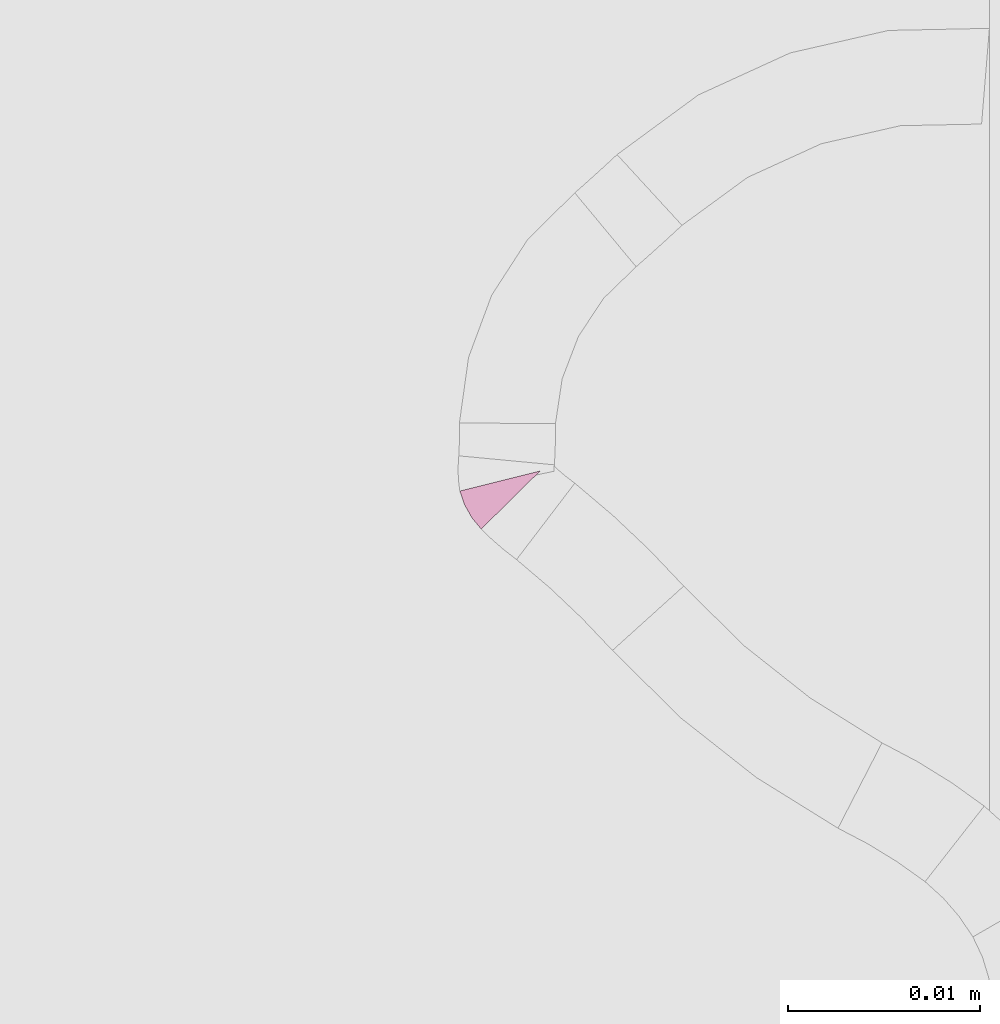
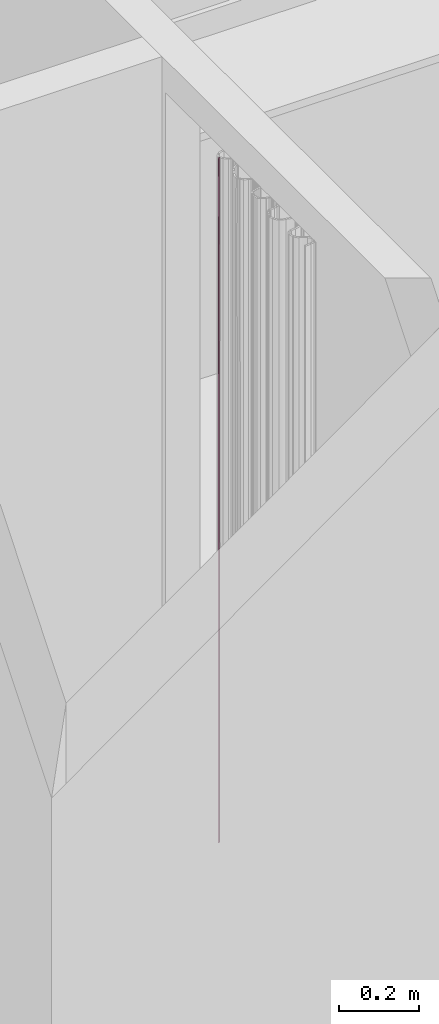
# One storey, part 339 of 418: 1 furnishing.
"""IFC2X3 building model written with IfcOpenShell, lengths in millimetres."""

import ifcopenshell
import ifcopenshell.guid

model = None  # the IFC model being written
_history = None  # IfcOwnerHistory: only IFC2X3 demands one
_inside = {}  # id of a spatial element -> (the spatial element, [elements in it])
_under = {}  # id of a project, library or spatial element -> (it, [spatial elements below it])
_declared = {}  # id of a project -> (the project, [libraries it declares])
_typed = {}  # id of a type object -> (the type object, [elements of that type])
_made_of = {}  # id of a material, layer set ... -> (it, [elements and type objects made of it])


def new_model(schema):
    """Start an empty IFC model of exactly this schema.

    Asked for "IFC4X3", IfcOpenShell would pick the latest addendum, in which some entities
    have other attributes; the version numbers below select the first issue.
    IFC2X3 requires an IfcOwnerHistory on every rooted entity: one is made here for all.
    """
    global model, _history
    if schema == "IFC4X3":
        model = ifcopenshell.file(schema_version=(4, 3, 0, 0))
    else:
        model = ifcopenshell.file(schema=schema)
    _inside.clear()
    _under.clear()
    _declared.clear()
    _typed.clear()
    _made_of.clear()
    _history = None
    if model.schema == "IFC2X3":
        org = make("IfcOrganization", Name="unknown")
        user = make(
            "IfcPersonAndOrganization",
            ThePerson=make("IfcPerson", FamilyName="unknown"),
            TheOrganization=org,
        )
        app = make(
            "IfcApplication",
            ApplicationDeveloper=org,
            Version="unknown",
            ApplicationFullName="unknown",
            ApplicationIdentifier="unknown",
        )
        _history = make(
            "IfcOwnerHistory",
            OwningUser=user,
            OwningApplication=app,
            ChangeAction="ADDED",
            CreationDate=0,
        )
    return model


def make(cls, **values):
    """One entity of the class cls with the attributes given. An attribute that is None is left unset."""
    return model.create_entity(
        cls, **{name: value for name, value in values.items() if value is not None}
    )


def entity(cls, *values):
    """Any entity or typed value of the class cls, its attributes in the order of the schema. None: left unset."""
    e = model.create_entity(cls)
    for i, value in enumerate(values):
        if value is not None:
            e[i] = value
    return e


def rooted(cls, **values):
    """An entity with a GlobalId (a new one), such as an element, a storey or a relation."""
    return make(cls, GlobalId=ifcopenshell.guid.new(), OwnerHistory=_history, **values)


def si_unit(unit_type, name, prefix=None):
    """IfcSIUnit, for example si_unit("LENGTHUNIT", "METRE", prefix="MILLI")."""
    return make("IfcSIUnit", UnitType=unit_type, Prefix=prefix, Name=name)


def converted_unit(unit_type, name, factor, base, dimensions=None, offset=None):
    """IfcConversionBasedUnit, such as the inch: factor (a typed value) times the base unit."""
    return make(
        "IfcConversionBasedUnit"
        if offset is None
        else "IfcConversionBasedUnitWithOffset",
        ConversionOffset=offset,
        Dimensions=None
        if dimensions is None
        else entity("IfcDimensionalExponents", *dimensions),
        UnitType=unit_type,
        Name=name,
        ConversionFactor=make(
            "IfcMeasureWithUnit", ValueComponent=factor, UnitComponent=base
        ),
    )


def derived_unit(unit_type, elements):
    """IfcDerivedUnit: a product of units, each with its exponent."""
    return make(
        "IfcDerivedUnit",
        Elements=[
            make("IfcDerivedUnitElement", Unit=unit, Exponent=power)
            for unit, power in elements
        ],
        UnitType=unit_type,
    )


def money_unit(currency):
    """IfcMonetaryUnit."""
    return make("IfcMonetaryUnit", Currency=currency)


def assignment(units):
    """IfcUnitAssignment: the units of a project."""
    return None if units is None else make("IfcUnitAssignment", Units=units)


def point(xyz):
    """IfcCartesianPoint."""
    return None if xyz is None else make("IfcCartesianPoint", Coordinates=xyz)


def direction(xyz):
    """IfcDirection."""
    return None if xyz is None else make("IfcDirection", DirectionRatios=xyz)


def frame(location, z_axis=None, x_axis=None):
    """IfcAxis2Placement3D, a coordinate frame: its origin and axes. An axis left out is left unset."""
    return make(
        "IfcAxis2Placement3D",
        Location=point(location),
        Axis=direction(z_axis),
        RefDirection=direction(x_axis),
    )


def frame_2d(location, x_axis=None):
    """IfcAxis2Placement2D, a coordinate frame in the plane: its origin and x axis."""
    return make(
        "IfcAxis2Placement2D", Location=point(location), RefDirection=direction(x_axis)
    )


def origin_with_axes():
    """The frame at (0, 0, 0) with the z axis (0, 0, 1) and the x axis (1, 0, 0) written out."""
    return frame((0.0, 0.0, 0.0), z_axis=(0.0, 0.0, 1.0), x_axis=(1.0, 0.0, 0.0))


def place(relative_to, where):
    """IfcLocalPlacement: puts the frame where relative to a parent placement (None: the world)."""
    return make(
        "IfcLocalPlacement", PlacementRelTo=relative_to, RelativePlacement=where
    )


def context(
    kind, dimensions, precision=None, world=None, true_north=None, identifier=None
):
    """IfcGeometricRepresentationContext, for example the 3D "Model" context."""
    return make(
        "IfcGeometricRepresentationContext",
        ContextIdentifier=identifier,
        ContextType=kind,
        CoordinateSpaceDimension=dimensions,
        Precision=precision,
        WorldCoordinateSystem=world,
        TrueNorth=true_north,
    )


def subcontext(parent, identifier, kind, view, scale=None):
    """IfcGeometricRepresentationSubContext, for example "Body" below "Model"."""
    return make(
        "IfcGeometricRepresentationSubContext",
        ContextIdentifier=identifier,
        ContextType=kind,
        ParentContext=parent,
        TargetScale=scale,
        TargetView=view,
    )


def project(units=None, contexts=None):
    """IfcProject with its units and contexts."""
    return rooted(
        "IfcProject",
        Name="project",
        RepresentationContexts=contexts,
        UnitsInContext=assignment(units),
    )


def spatial(cls, under=None, at=None, **own):
    """A site, building, storey or space (cls), placed at a placement, below another one or the project."""
    s = rooted(cls, ObjectPlacement=at, **own)
    if under is not None:
        _under.setdefault(under.id(), (under, []))[1].append(s)
    return s


def polyline(points):
    """IfcPolyline through the points."""
    return make("IfcPolyline", Points=[point(p) for p in points])


def circle_curve(where, radius):
    """IfcCircle in the frame where."""
    return make("IfcCircle", Position=where, Radius=radius)


def parameter(value):
    """IfcParameterValue: where a trimmed curve begins or ends, as a parameter of its basis curve."""
    return model.create_entity("IfcParameterValue", value)


def trimmed(basis, trim1, trim2, sense, master):
    """IfcTrimmedCurve: the piece of a basis curve between two trims."""
    return make(
        "IfcTrimmedCurve",
        BasisCurve=basis,
        Trim1=trim1,
        Trim2=trim2,
        SenseAgreement=sense,
        MasterRepresentation=master,
    )


def segment(curve, same_sense, transition):
    """IfcCompositeCurveSegment."""
    return make(
        "IfcCompositeCurveSegment",
        Transition=transition,
        SameSense=same_sense,
        ParentCurve=curve,
    )


def composite_curve(segments, self_intersect=None):
    """IfcCompositeCurve: segments joined end to end."""
    return make("IfcCompositeCurve", Segments=segments, SelfIntersect=self_intersect)


def outline(outer, holes=None, kind="AREA"):
    """IfcArbitraryClosedProfileDef: a profile drawn as a closed curve; with holes, ...WithVoids."""
    if holes is None:
        return make("IfcArbitraryClosedProfileDef", ProfileType=kind, OuterCurve=outer)
    return make(
        "IfcArbitraryProfileDefWithVoids",
        ProfileType=kind,
        OuterCurve=outer,
        InnerCurves=holes,
    )


def extrude(swept, where, along, depth):
    """IfcExtrudedAreaSolid: the profile swept, set in the frame where, extruded along a direction by depth."""
    return make(
        "IfcExtrudedAreaSolid",
        SweptArea=swept,
        Position=where,
        ExtrudedDirection=direction(along),
        Depth=depth,
    )


def shape(context_of_items, identifier, shape_type, items):
    """IfcShapeRepresentation: the items that make up one representation, for example the "Body"."""
    return make(
        "IfcShapeRepresentation",
        ContextOfItems=context_of_items,
        RepresentationIdentifier=identifier,
        RepresentationType=shape_type,
        Items=items,
    )


def material(Name=None, Category=None):
    """IfcMaterial."""
    return make("IfcMaterial", Name=Name, Category=Category)


def made_of(thing, what):
    """Note that an element or type object is made of a material, layer set ...; save() writes the relation."""
    if what is not None:
        _made_of.setdefault(what.id(), (what, []))[1].append(thing)
    return thing


def type_object(cls, material=None, **own):
    """A type object (cls), such as IfcWallType, which elements share."""
    return made_of(rooted(cls, **own), material)


def element(
    cls,
    number,
    at=None,
    inside=None,
    cuts=None,
    type_object=None,
    material=None,
    context=None,
    identifier="Body",
    shape_type=None,
    held_by="IfcProductDefinitionShape",
    body=None,
    shapes=None,
    **own,
):
    """One element of the class cls, such as IfcWall. Its Tag is "e" and its number.

    at: its placement. inside: the storey or other place that contains it. cuts: it is an
    opening in that element (IfcRelVoidsElement). A single representation is given by context,
    identifier, shape_type and body (its items); several are given by shapes. held_by: the class
    of the entity that holds the representations. save() writes the other relations.
    """
    e = rooted(cls, Tag="e%d" % number, ObjectPlacement=at, **own)
    if body is not None:
        shapes = [shape(context, identifier, shape_type, body)]
    if shapes is not None:
        e.Representation = make(held_by, Representations=shapes)
    if inside is not None:
        _inside.setdefault(inside.id(), (inside, []))[1].append(e)
    if cuts is not None:
        rooted(
            "IfcRelVoidsElement", RelatingBuildingElement=cuts, RelatedOpeningElement=e
        )
    if type_object is not None:
        _typed.setdefault(type_object.id(), (type_object, []))[1].append(e)
    return made_of(e, material)


def aggregate(whole, parts):
    """IfcRelAggregates: a whole, such as a stair, and the parts it consists of."""
    return rooted("IfcRelAggregates", RelatingObject=whole, RelatedObjects=parts)


def save(model, path):
    """Write the relations noted so far, then the file.

    IfcRelAggregates (storeys below a building ...), IfcRelContainedInSpatialStructure (elements
    in a storey), IfcRelDefinesByType, IfcRelAssociatesMaterial and IfcRelDeclares: one each for
    every whole, place, type object, material and project.
    """
    for whole, parts in _under.values():
        aggregate(whole, parts)
    for where, things in _inside.values():
        rooted(
            "IfcRelContainedInSpatialStructure",
            RelatedElements=things,
            RelatingStructure=where,
        )
    for kind, things in _typed.values():
        rooted("IfcRelDefinesByType", RelatedObjects=things, RelatingType=kind)
    for what, things in _made_of.values():
        rooted("IfcRelAssociatesMaterial", RelatedObjects=things, RelatingMaterial=what)
    for by, libraries in _declared.values():
        rooted("IfcRelDeclares", RelatingContext=by, RelatedDefinitions=libraries)
    model.write(path)


model = new_model("IFC2X3")

# Units and contexts
model_context = context("Model", 3, precision=0.01, world=origin_with_axes(), true_north=direction((0.0, 1.0)))
body_context = subcontext(model_context, "Body", "Model", "MODEL_VIEW")
ifc_project = project(units=[si_unit("LENGTHUNIT", "METRE", prefix="MILLI"), si_unit("AREAUNIT", "SQUARE_METRE"), si_unit("VOLUMEUNIT", "CUBIC_METRE"), converted_unit("PLANEANGLEUNIT", "DEGREE", entity("IfcPlaneAngleMeasure", 0.0174532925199), si_unit("PLANEANGLEUNIT", "RADIAN"), dimensions=[0, 0, 0, 0, 0, 0, 0]), si_unit("SOLIDANGLEUNIT", "STERADIAN"), money_unit("EUR"), converted_unit("TIMEUNIT", "Year", entity("IfcTimeMeasure", 31556926.0), si_unit("TIMEUNIT", "SECOND"), dimensions=[0, 0, 1, 0, 0, 0, 0]), si_unit("MASSUNIT", "GRAM", prefix="KILO"), si_unit("THERMODYNAMICTEMPERATUREUNIT", "DEGREE_CELSIUS"), si_unit("LUMINOUSINTENSITYUNIT", "LUMEN"), si_unit("ENERGYUNIT", "JOULE", prefix="MEGA"), derived_unit("THERMALCONDUCTANCEUNIT", [(si_unit("POWERUNIT", "WATT"), 1), (si_unit("LENGTHUNIT", "METRE"), -1), (si_unit("THERMODYNAMICTEMPERATUREUNIT", "KELVIN"), -1)]), derived_unit("SPECIFICHEATCAPACITYUNIT", [(si_unit("ENERGYUNIT", "JOULE"), 1), (si_unit("MASSUNIT", "GRAM", prefix="KILO"), -1), (si_unit("THERMODYNAMICTEMPERATUREUNIT", "KELVIN"), -1)]), derived_unit("MASSDENSITYUNIT", [(si_unit("MASSUNIT", "GRAM", prefix="KILO"), 1), (si_unit("VOLUMEUNIT", "CUBIC_METRE"), -1)])], contexts=[model_context])

# Site, building, storey
site_placement = place(None, origin_with_axes())
site = spatial("IfcSite", under=ifc_project, at=site_placement, Name="Paldiski mnt 245/1, Tallinn, Harjumaa", CompositionType="COMPLEX")
building_placement = place(site_placement, origin_with_axes())
building = spatial("IfcBuilding", under=site, at=building_placement, Name="RKAS Hoone üldnimetus (kasutust iseloomustav) -> IFC Project Manager -> SOLIBRI", CompositionType="ELEMENT")
storey_placement = place(building_placement, origin_with_axes())
storey = spatial("IfcBuildingStorey", under=building, at=storey_placement, Name="Esimene korrus", CompositionType="ELEMENT", Elevation=0.0)

# Furnishing
ifc_material = material(Name="KON-00_GENEERILINE - KONSTRUKTSIOON")
furniture_type = type_object("IfcFurnitureType", Name="KON-00_GENEERILINE - KONSTRUKTSIOON 5", AssemblyPlace="NOTDEFINED")
furnishing_placement = place(storey_placement, frame((-44049.9765391, -1890.9619321, 0.0), z_axis=(0.0, 0.0, 1.0), x_axis=(0.242884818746, -0.97005513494, 0.0)))
element("IfcFurnishingElement", 1, at=furnishing_placement, inside=storey, type_object=furniture_type, material=ifc_material, Name="SS-69", context=body_context, shape_type="SweptSolid", body=[
    extrude(outline(composite_curve([segment(trimmed(circle_curve(frame_2d((0.0, 4.31509645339), x_axis=(0.0, -1.0)), 4.31509645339), [point((0.0, 0.0)), parameter(0.0)], [point((2.19391051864, 0.599344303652)), parameter(30.5590938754)], True, "CARTESIAN"), True, "CONTINUOUS"), segment(polyline([(2.19391051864, 0.599344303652), (0.0, 4.31509645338), (0.0, 0.0)]), True, "CONTINUOUS")], self_intersect=False)), origin_with_axes(), (0.0, 0.0, 1.0), 2100.0),
])

save(model, "model.ifc")
